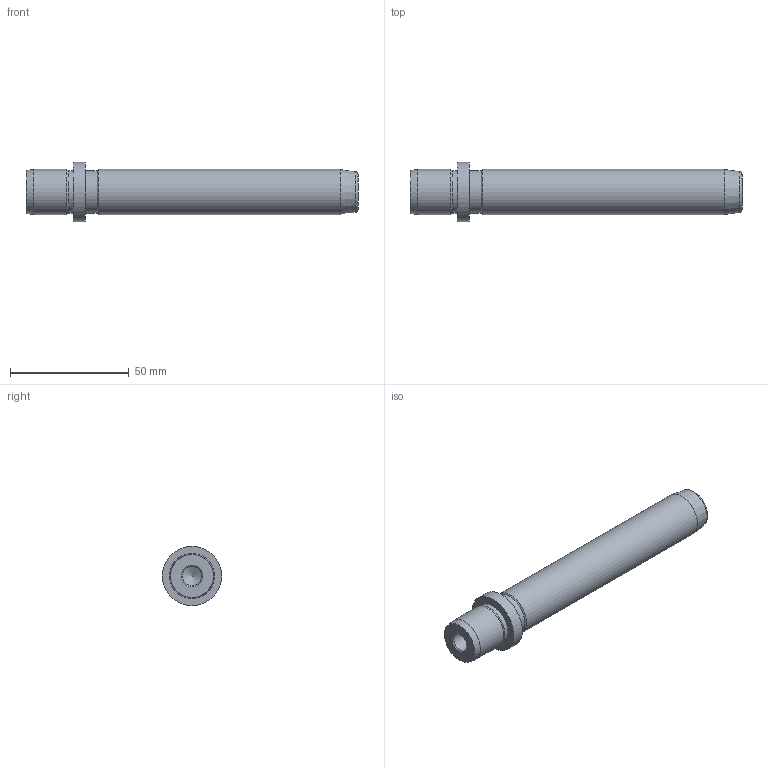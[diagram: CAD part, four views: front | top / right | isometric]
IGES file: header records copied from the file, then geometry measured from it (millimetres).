
Global section: file name: CE19120.ipt; native system: Autodesk Inventor 2021; preprocessor: unknown; author: SM; date: 20211217.134024; units: millimetre
Bounding box: 140 x 25 x 25 mm (x, y, z)
Volume: 38880.3 mm3; surface area: 10010.2 mm2
Topology: 1 solids, 1 shells, 17 faces, 35 edges, 22 vertices
Faces by surface type: cylinder 5, cone 4, plane 4, revolution 3, bspline 1
Full cylindrical faces by diameter (mm): 18 x2, 19 x2, 25 x1
